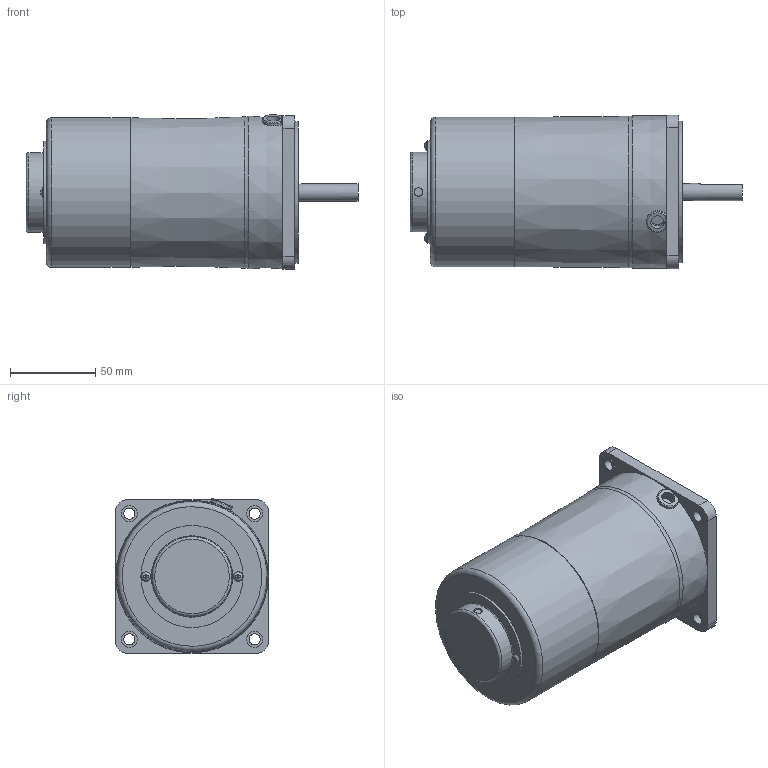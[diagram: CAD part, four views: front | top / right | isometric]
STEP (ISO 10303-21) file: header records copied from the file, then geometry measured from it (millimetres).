
FILE_DESCRIPTION((''),'2;1');
FILE_NAME('D:\김성묵\업무폴더\개발 파일\프로젝트 개발 AB등급\AC표준형 개발자료\90각 이하 표준형 개발\도면작성 자료\3D 도면\홈페이지용 3D 파일\40W MOTOR\ES TYPE\S9R40K-ES.stp','2015-03-30T20:42:14',('smkim'),(''),'Autodesk Inventor 2012','Autodesk Inventor 2012','');
FILE_SCHEMA(('AUTOMOTIVE_DESIGN { 1 0 10303 214 1 1 1 1 }'));
Length unit declared in the file: millimetre
Products named in the file (1): 부품123
Bounding box: 194.5 x 90 x 90.6 mm (x, y, z)
Volume: 918216.2 mm3; surface area: 64356.4 mm2
Topology: 1 solids, 6 shells, 150 faces, 350 edges, 229 vertices
Faces by surface type: plane 86, cylinder 49, torus 10, bspline 3, cone 2
Full cylindrical faces by diameter (mm): 3 x2, 3.5 x2, 5 x1, 5.6 x2, 6.5 x4, 8 x1, 9.5 x4, 10 x2, 40 x1, 44.7 x1, 46.7 x1, 47.7 x1, 59.9 x1, 83 x1, 86 x1, 87.8 x1
Entity records: 4468 total; most frequent: CARTESIAN_POINT 1136, DIRECTION 668, ORIENTED_EDGE 598, EDGE_CURVE 299, AXIS2_PLACEMENT_3D 254, EDGE_LOOP 223, VERTEX_POINT 218, VECTOR 160
